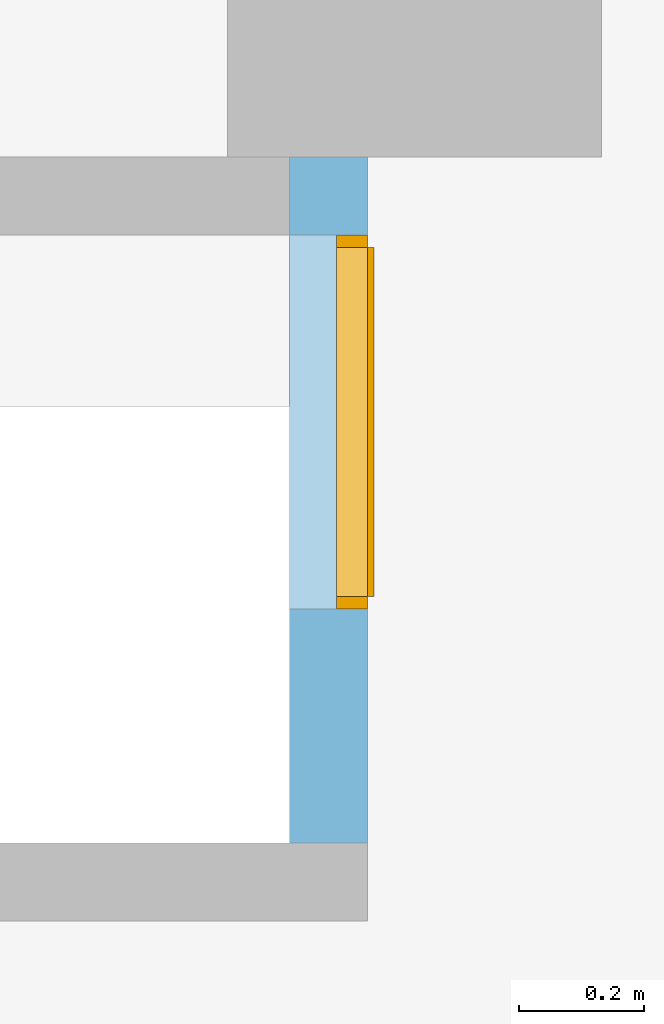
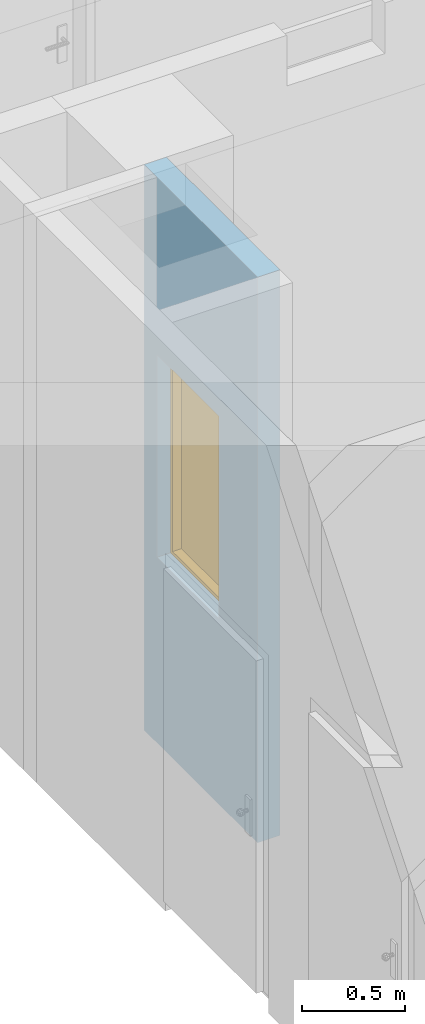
# One storey, part 86 of 140: 1 window, 1 opening, plus 1 element that does not belong to this part.
"""IFC4 building model written with IfcOpenShell, lengths in metres."""

from ifc_helpers import new_model, entity, si_unit, converted_unit, derived_unit, frame, frame_2d, origin, origin_with_axes, place, context, subcontext, project, spatial, polyline, rectangle, outline, extrude, faceted_brep, source, transform, mapped, material, layer, layer_set, layer_usage, element, fill, save


model = new_model("IFC4")

# Units and contexts
model_context = context("Model", 3, precision=1e-05, world=origin())
body_context = subcontext(model_context, "Body", "Model", "MODEL_VIEW")
ifc_project = project(units=[si_unit("LENGTHUNIT", "METRE"), si_unit("AREAUNIT", "SQUARE_METRE"), si_unit("VOLUMEUNIT", "CUBIC_METRE"), si_unit("MASSUNIT", "GRAM", prefix="KILO"), converted_unit("PLANEANGLEUNIT", "DEGREE", entity("IfcPlaneAngleMeasure", 0.0174532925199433), si_unit("PLANEANGLEUNIT", "RADIAN"), dimensions=[0, 0, 0, 0, 0, 0, 0]), derived_unit("THERMALTRANSMITTANCEUNIT", [(si_unit("POWERUNIT", "WATT"), 1), (si_unit("THERMODYNAMICTEMPERATUREUNIT", "KELVIN"), -1), (si_unit("LENGTHUNIT", "METRE"), -2)]), derived_unit("VOLUMETRICFLOWRATEUNIT", [(si_unit("LENGTHUNIT", "METRE"), 3), (converted_unit("TIMEUNIT", "hour", entity("IfcTimeMeasure", 3600.0), si_unit("TIMEUNIT", "SECOND"), dimensions=[0, 0, 1, 0, 0, 0, 0]), -1), (si_unit("LENGTHUNIT", "METRE"), -1)])], contexts=[model_context])

# Site, building, storey
site_placement = place(None, origin())
site = spatial("IfcSite", under=ifc_project, at=site_placement, Name="3. ASŘ", CompositionType="ELEMENT")
building_placement = place(site_placement, origin())
building = spatial("IfcBuilding", under=site, at=building_placement, Name="Pavilon C", CompositionType="ELEMENT")
storey_placement = place(building_placement, origin())
storey = spatial("IfcBuildingStorey", under=building, at=storey_placement, Name="Půdorys 1.NP", CompositionType="ELEMENT", Elevation=0.0)

# Wall, opening, window
ifc_material = material(Name="ZDIVO Z CDm")
ifc_layer = layer(ifc_material, 0.125)
ifc_layer_set = layer_set([ifc_layer])
ifc_layer_usage = layer_usage(ifc_layer_set, "AXIS2", "POSITIVE", 0.0)
wall_placement = place(storey_placement, frame((43.75, 12.9, -0.1), z_axis=(0.0, 0.0, 1.0), x_axis=(0.0, -1.0, 0.0)))
wall = element("IfcWall", 1, at=wall_placement, inside=storey, material=ifc_layer_usage, Name="ZDIVO Z CDm", context=body_context, shape_type="SweptSolid", body=[
    extrude(rectangle(XDim=1.1, YDim=0.125, at=frame_2d((0.55, 0.0625), x_axis=(1.0, 0.0))), origin_with_axes(), (0.0, 0.0, 1.0), 3.35),
])
opening_placement = place(wall_placement, frame((0.725000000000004, 0.125, 1.1), z_axis=(0.0, -1.0, 0.0), x_axis=(0.0, 0.0, 1.0)))
opening = element("IfcOpeningElement", 2, at=opening_placement, cuts=wall, Name="Okenní otvor", ObjectType="Opening", context=body_context, shape_type="SweptSolid", body=[
    extrude(outline(polyline([(0.0, 0.6), (1.2, 0.6), (1.2, 0.0), (0.0, 0.0), (0.0, 0.6)])), origin_with_axes(), (0.0, 0.0, 1.0), 0.125),
])
shared_shape = source(origin_with_axes(), body_context, "Body", "Brep", [
    faceted_brep([(0.0, 0.0600000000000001, 1.2), (0.0, 0.06, 4.91096680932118e-19), (0.02, 0.06, 4.91096680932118e-19), (0.02, 0.0600000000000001, 1.2), (0.0, 0.01, 6.61433067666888e-18), (0.0, 0.0100000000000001, 1.2), (0.02, 0.0100000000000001, 1.2), (0.02, 0.01, 6.61433067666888e-18)], [[[0, 1, 2, 3]], [[4, 5, 6, 7]], [[1, 0, 5, 4]], [[2, 1, 4, 7]], [[3, 2, 7, 6]], [[0, 3, 6, 5]]], orient=[[False], [False], [False], [False], [False], [False]]),
    faceted_brep([(0.58, 0.0600000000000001, 1.2), (0.58, 0.06, 4.91096680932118e-19), (0.6, 0.06, 4.91096680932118e-19), (0.6, 0.0600000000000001, 1.2), (0.58, 0.01, 6.61433067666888e-18), (0.58, 0.0100000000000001, 1.2), (0.6, 0.0100000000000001, 1.2), (0.6, 0.01, 6.61433067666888e-18)], [[[0, 1, 2, 3]], [[4, 5, 6, 7]], [[1, 0, 5, 4]], [[2, 1, 4, 7]], [[3, 2, 7, 6]], [[0, 3, 6, 5]]], orient=[[False], [False], [False], [False], [False], [False]]),
    faceted_brep([(0.02, 0.06, 0.02), (0.02, 0.06, 4.91096680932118e-19), (0.58, 0.06, 4.91096680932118e-19), (0.58, 0.06, 0.02), (0.02, 0.01, 6.61433067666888e-18), (0.02, 0.01, 0.02), (0.58, 0.01, 0.02), (0.58, 0.01, 6.61433067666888e-18)], [[[0, 1, 2, 3]], [[4, 5, 6, 7]], [[1, 0, 5, 4]], [[2, 1, 4, 7]], [[3, 2, 7, 6]], [[0, 3, 6, 5]]], orient=[[False], [False], [False], [False], [False], [False]]),
    faceted_brep([(0.02, 0.0600000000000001, 1.2), (0.02, 0.0600000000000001, 1.18), (0.58, 0.0600000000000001, 1.18), (0.58, 0.0600000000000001, 1.2), (0.02, 0.0100000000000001, 1.18), (0.02, 0.0100000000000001, 1.2), (0.58, 0.0100000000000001, 1.2), (0.58, 0.0100000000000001, 1.18)], [[[0, 1, 2, 3]], [[4, 5, 6, 7]], [[1, 0, 5, 4]], [[2, 1, 4, 7]], [[3, 2, 7, 6]], [[0, 3, 6, 5]]], orient=[[False], [False], [False], [False], [False], [False]]),
    faceted_brep([(0.02, 0.0100000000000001, 1.18), (0.02, 0.01, 0.02), (0.58, 0.01, 0.02), (0.58, 0.0100000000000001, 1.18), (0.02, 0.0, 0.02), (0.02, 1.4210854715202e-16, 1.18), (0.58, 1.4210854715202e-16, 1.18), (0.58, 0.0, 0.02)], [[[0, 1, 2, 3]], [[4, 5, 6, 7]], [[1, 0, 5, 4]], [[2, 1, 4, 7]], [[3, 2, 7, 6]], [[0, 3, 6, 5]]], orient=[[False], [False], [False], [False], [False], [False]]),
])
window_placement = place(opening_placement, frame((0.0, 0.599999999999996, -0.00999999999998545), z_axis=(1.0, 0.0, 0.0), x_axis=(0.0, -1.0, 1.22464679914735e-16)))
window = element("IfcWindow", 3, at=window_placement, inside=storey, Name="O01", OverallHeight=1.2, OverallWidth=0.6, PartitioningType="USERDEFINED", PredefinedType="WINDOW", context=body_context, shape_type="MappedRepresentation", body=[
    mapped(shared_shape, transform((0.0, 0.0, 0.0), x_axis=(1.0, 0.0, 0.0), y_axis=(0.0, -1.0, 0.0), z_axis=(0.0, 0.0, 1.0), scale=1.0)),
])
fill(opening, window)

save(model, "model.ifc")
